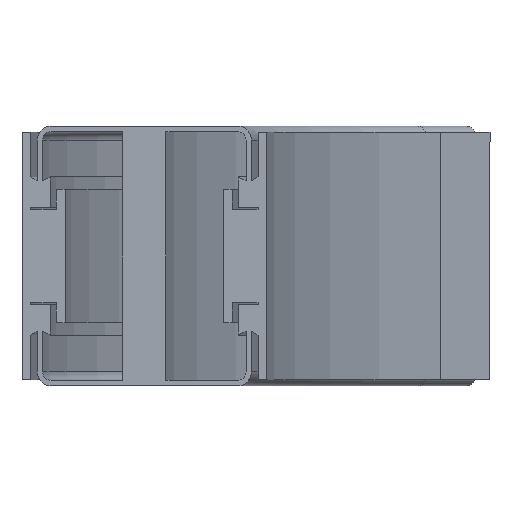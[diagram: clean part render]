
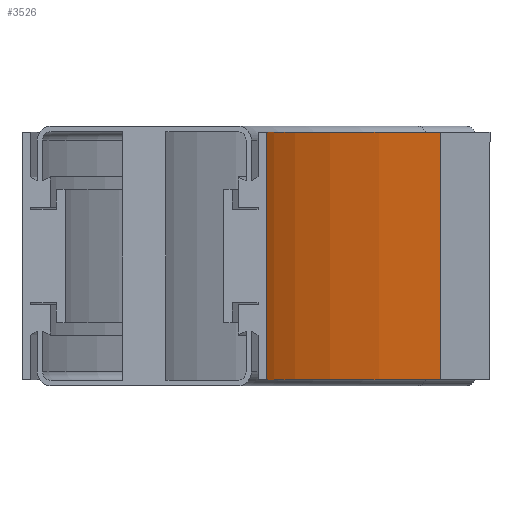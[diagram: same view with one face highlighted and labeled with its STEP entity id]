
A CAD part, left-side view. The second image highlights one B-rep face of the part: STEP entity #3526.
In plain terms, the highlighted cylindrical face has radius 443.5 mm (diameter 887 mm), a partial arc.
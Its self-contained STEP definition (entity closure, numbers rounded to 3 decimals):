
#88 = CARTESIAN_POINT ( 'NONE',  ( 40., -56.5, -57.15 ) ) ;
#160 = EDGE_LOOP ( 'NONE', ( #5008, #297, #4706, #2931 ) ) ;
#297 = ORIENTED_EDGE ( 'NONE', *, *, #5429, .F. ) ;
#476 = DIRECTION ( 'NONE',  ( 0., 0., -1. ) ) ;
#587 = VECTOR ( 'NONE', #476, 1000. ) ;
#713 = CARTESIAN_POINT ( 'NONE',  ( 40., -500., 0. ) ) ;
#1324 = VERTEX_POINT ( 'NONE', #3963 ) ;
#1334 = EDGE_CURVE ( 'NONE', #1324, #1990, #4043, .T. ) ;
#1354 = CARTESIAN_POINT ( 'NONE',  ( 40., -56.5, 0. ) ) ;
#1360 = DIRECTION ( 'NONE',  ( 0., 0., 1. ) ) ;
#1364 = AXIS2_PLACEMENT_3D ( 'NONE', #713, #1540, #3751 ) ;
#1463 = CIRCLE ( 'NONE', #5443, 443.5 ) ;
#1540 = DIRECTION ( 'NONE',  ( 0., 0., 1. ) ) ;
#1617 = AXIS2_PLACEMENT_3D ( 'NONE', #3896, #5680, #1732 ) ;
#1732 = DIRECTION ( 'NONE',  ( 1., 0., 0. ) ) ;
#1990 = VERTEX_POINT ( 'NONE', #88 ) ;
#2052 = VERTEX_POINT ( 'NONE', #3655 ) ;
#2198 = CARTESIAN_POINT ( 'NONE',  ( 40., -500., 57.15 ) ) ;
#2354 = CYLINDRICAL_SURFACE ( 'NONE', #1364, 443.5 ) ;
#2576 = EDGE_CURVE ( 'NONE', #5119, #2052, #4363, .T. ) ;
#2931 = ORIENTED_EDGE ( 'NONE', *, *, #5426, .T. ) ;
#3153 = CARTESIAN_POINT ( 'NONE',  ( 294.381, -136.706, -57.15 ) ) ;
#3481 = DIRECTION ( 'NONE',  ( 1., 0., 0. ) ) ;
#3526 = ADVANCED_FACE ( 'NONE', ( #3757 ), #2354, .F. ) ;
#3655 = CARTESIAN_POINT ( 'NONE',  ( 294.381, -136.706, 57.15 ) ) ;
#3751 = DIRECTION ( 'NONE',  ( 1., 0., 0. ) ) ;
#3757 = FACE_OUTER_BOUND ( 'NONE', #160, .T. ) ;
#3896 = CARTESIAN_POINT ( 'NONE',  ( 40., -500., -57.15 ) ) ;
#3963 = CARTESIAN_POINT ( 'NONE',  ( 40., -56.5, 57.15 ) ) ;
#4043 = LINE ( 'NONE', #1354, #587 ) ;
#4356 = DIRECTION ( 'NONE',  ( 0., 0., 1. ) ) ;
#4363 = LINE ( 'NONE', #4414, #4795 ) ;
#4414 = CARTESIAN_POINT ( 'NONE',  ( 294.381, -136.706, -57.15 ) ) ;
#4706 = ORIENTED_EDGE ( 'NONE', *, *, #2576, .T. ) ;
#4795 = VECTOR ( 'NONE', #1360, 1000. ) ;
#5008 = ORIENTED_EDGE ( 'NONE', *, *, #1334, .T. ) ;
#5014 = CIRCLE ( 'NONE', #1617, 443.5 ) ;
#5119 = VERTEX_POINT ( 'NONE', #3153 ) ;
#5426 = EDGE_CURVE ( 'NONE', #2052, #1324, #1463, .T. ) ;
#5429 = EDGE_CURVE ( 'NONE', #5119, #1990, #5014, .T. ) ;
#5443 = AXIS2_PLACEMENT_3D ( 'NONE', #2198, #4356, #3481 ) ;
#5680 = DIRECTION ( 'NONE',  ( 0., 0., 1. ) ) ;
